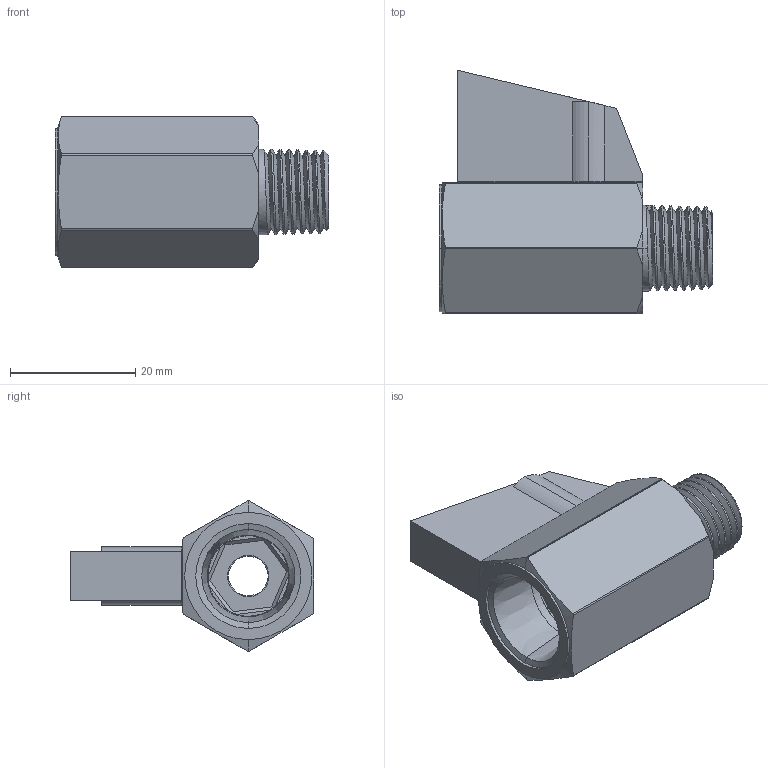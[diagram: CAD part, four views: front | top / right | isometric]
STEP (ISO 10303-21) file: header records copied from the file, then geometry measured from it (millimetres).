
FILE_DESCRIPTION (( 'STEP AP203' ), '1' );
FILE_NAME ('NB-M2.STEP', '2021-03-04T22:10:49', ( '' ), ( '' ), 'SwSTEP 2.0', 'SolidWorks 2017', '' );
FILE_SCHEMA (( 'CONFIG_CONTROL_DESIGN' ));
Length unit declared in the file: inch
Products named in the file (2): NB-M2
Bounding box: 43.69 x 38.91 x 24.03 mm (x, y, z)
Volume: 13487.4 mm3; surface area: 6529.2 mm2
Topology: 2 solids, 2 shells, 109 faces, 274 edges, 175 vertices
Faces by surface type: plane 44, cone 37, cylinder 20, torus 4, bspline 4
Entity records: 6297 total; most frequent: CARTESIAN_POINT 3632, ORIENTED_EDGE 546, DIRECTION 491, EDGE_CURVE 273, AXIS2_PLACEMENT_3D 182, VERTEX_POINT 173, VECTOR 127, LINE 127
